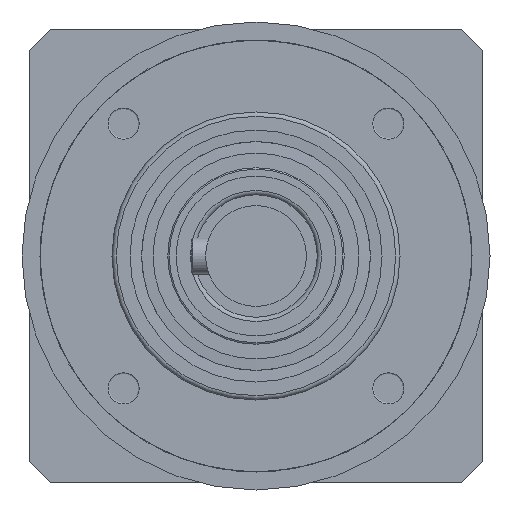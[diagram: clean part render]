
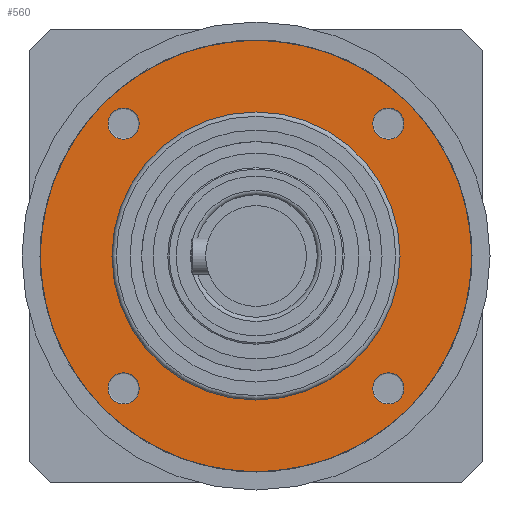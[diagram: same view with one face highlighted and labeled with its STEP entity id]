
A CAD part, left-side view. The second image highlights one B-rep face of the part: STEP entity #560.
In plain terms, the highlighted planar face has unit normal (-1, 0, 0).
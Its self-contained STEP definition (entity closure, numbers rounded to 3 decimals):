
#295=FACE_BOUND('',#878,.T.);
#296=FACE_BOUND('',#879,.T.);
#297=FACE_BOUND('',#880,.T.);
#298=FACE_BOUND('',#881,.T.);
#299=FACE_BOUND('',#882,.T.);
#560=ADVANCED_FACE('',(#295,#296,#297,#298,#299),#623,.T.);
#623=PLANE('',#2187);
#878=EDGE_LOOP('',(#1412));
#879=EDGE_LOOP('',(#1413));
#880=EDGE_LOOP('',(#1414));
#881=EDGE_LOOP('',(#1415));
#882=EDGE_LOOP('',(#1416));
#1412=ORIENTED_EDGE('',*,*,#1807,.T.);
#1413=ORIENTED_EDGE('',*,*,#1808,.T.);
#1414=ORIENTED_EDGE('',*,*,#1809,.T.);
#1415=ORIENTED_EDGE('',*,*,#1810,.T.);
#1416=ORIENTED_EDGE('',*,*,#1811,.T.);
#1602=VERTEX_POINT('',#3405);
#1603=VERTEX_POINT('',#3407);
#1604=VERTEX_POINT('',#3409);
#1605=VERTEX_POINT('',#3411);
#1606=VERTEX_POINT('',#3413);
#1807=EDGE_CURVE('',#1602,#1602,#1933,.T.);
#1808=EDGE_CURVE('',#1603,#1603,#1934,.T.);
#1809=EDGE_CURVE('',#1604,#1604,#1935,.T.);
#1810=EDGE_CURVE('',#1605,#1605,#1936,.T.);
#1811=EDGE_CURVE('',#1606,#1606,#1937,.T.);
#1933=CIRCLE('',#2182,2.175);
#1934=CIRCLE('',#2183,2.175);
#1935=CIRCLE('',#2184,2.175);
#1936=CIRCLE('',#2185,2.175);
#1937=CIRCLE('',#2186,30.);
#2182=AXIS2_PLACEMENT_3D('',#3404,#2748,#2749);
#2183=AXIS2_PLACEMENT_3D('',#3406,#2750,#2751);
#2184=AXIS2_PLACEMENT_3D('',#3408,#2752,#2753);
#2185=AXIS2_PLACEMENT_3D('',#3410,#2754,#2755);
#2186=AXIS2_PLACEMENT_3D('',#3412,#2756,#2757);
#2187=AXIS2_PLACEMENT_3D('',#3414,#2758,#2759);
#2748=DIRECTION('',(1.,0.,0.));
#2749=DIRECTION('',(0.,-0.707,0.707));
#2750=DIRECTION('',(1.,0.,0.));
#2751=DIRECTION('',(0.,-0.707,-0.707));
#2752=DIRECTION('',(1.,0.,0.));
#2753=DIRECTION('',(0.,0.707,-0.707));
#2754=DIRECTION('',(1.,0.,0.));
#2755=DIRECTION('',(0.,0.707,0.707));
#2756=DIRECTION('',(-1.,0.,0.));
#2757=DIRECTION('',(0.,0.707,0.707));
#2758=DIRECTION('',(-1.,0.,0.));
#2759=DIRECTION('',(0.,0.707,0.707));
#3404=CARTESIAN_POINT('',(-57.55,18.385,18.385));
#3405=CARTESIAN_POINT('',(-57.55,16.847,19.923));
#3406=CARTESIAN_POINT('',(-57.55,-18.385,18.385));
#3407=CARTESIAN_POINT('',(-57.55,-19.923,16.847));
#3408=CARTESIAN_POINT('',(-57.55,-18.385,-18.385));
#3409=CARTESIAN_POINT('',(-57.55,-16.847,-19.923));
#3410=CARTESIAN_POINT('',(-57.55,18.385,-18.385));
#3411=CARTESIAN_POINT('',(-57.55,19.923,-16.847));
#3412=CARTESIAN_POINT('',(-57.55,0.,0.));
#3413=CARTESIAN_POINT('',(-57.55,21.213,21.213));
#3414=CARTESIAN_POINT('',(-57.55,0.,0.));
